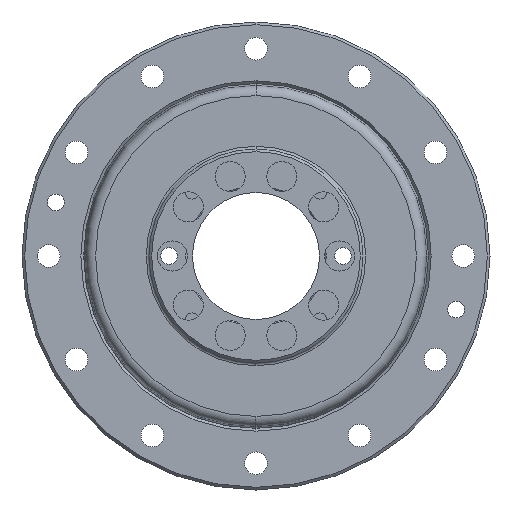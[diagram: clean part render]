
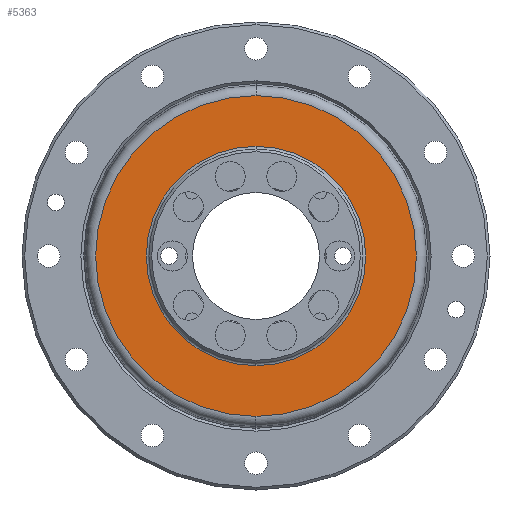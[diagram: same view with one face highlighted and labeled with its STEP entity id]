
A CAD part, left-side view. The second image highlights one B-rep face of the part: STEP entity #5363.
In plain terms, the highlighted planar face has unit normal (-1, 0, 0).
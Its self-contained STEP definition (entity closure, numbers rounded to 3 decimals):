
#2477 = CARTESIAN_POINT ( 'NONE',  ( 1.7, 0., 0. ) ) ;
#2858 = CIRCLE ( 'NONE', #3578, 23.988 ) ;
#3578 = AXIS2_PLACEMENT_3D ( 'NONE', #4818, #15062, #6288 ) ;
#3952 = DIRECTION ( 'NONE',  ( 0., 0., 1. ) ) ;
#4214 = AXIS2_PLACEMENT_3D ( 'NONE', #14289, #5531, #15773 ) ;
#4442 = AXIS2_PLACEMENT_3D ( 'NONE', #2477, #12721, #3952 ) ;
#4766 = AXIS2_PLACEMENT_3D ( 'NONE', #13848, #8037, #18282 ) ;
#4790 = ORIENTED_EDGE ( 'NONE', *, *, #7556, .F. ) ;
#4818 = CARTESIAN_POINT ( 'NONE',  ( 1.7, 0., 0. ) ) ;
#4931 = ORIENTED_EDGE ( 'NONE', *, *, #14166, .T. ) ;
#5246 = CARTESIAN_POINT ( 'NONE',  ( 1.7, 0., -16.4 ) ) ;
#5334 = CIRCLE ( 'NONE', #4214, 16.4 ) ;
#5363 = ADVANCED_FACE ( 'NONE', ( #11347, #7416 ), #18213, .F. ) ;
#5493 = DIRECTION ( 'NONE',  ( -1., 0., 0. ) ) ;
#5531 = DIRECTION ( 'NONE',  ( -1., 0., 0. ) ) ;
#5776 = CIRCLE ( 'NONE', #4442, 16.4 ) ;
#6288 = DIRECTION ( 'NONE',  ( 0., 0., 1. ) ) ;
#6703 = ORIENTED_EDGE ( 'NONE', *, *, #7079, .F. ) ;
#7079 = EDGE_CURVE ( 'NONE', #12182, #14855, #5334, .T. ) ;
#7289 = CARTESIAN_POINT ( 'NONE',  ( 1.7, 0., 23.988 ) ) ;
#7416 = FACE_OUTER_BOUND ( 'NONE', #10125, .T. ) ;
#7556 = EDGE_CURVE ( 'NONE', #14855, #12182, #5776, .T. ) ;
#8037 = DIRECTION ( 'NONE',  ( 1., 0., 0. ) ) ;
#8251 = VERTEX_POINT ( 'NONE', #9886 ) ;
#8681 = AXIS2_PLACEMENT_3D ( 'NONE', #14253, #5493, #15746 ) ;
#9886 = CARTESIAN_POINT ( 'NONE',  ( 1.7, 0., -23.988 ) ) ;
#10125 = EDGE_LOOP ( 'NONE', ( #4931, #11614 ) ) ;
#10468 = EDGE_CURVE ( 'NONE', #8251, #12873, #15090, .T. ) ;
#11347 = FACE_BOUND ( 'NONE', #13259, .T. ) ;
#11614 = ORIENTED_EDGE ( 'NONE', *, *, #10468, .T. ) ;
#12182 = VERTEX_POINT ( 'NONE', #14241 ) ;
#12721 = DIRECTION ( 'NONE',  ( -1., 0., 0. ) ) ;
#12873 = VERTEX_POINT ( 'NONE', #7289 ) ;
#13259 = EDGE_LOOP ( 'NONE', ( #6703, #4790 ) ) ;
#13848 = CARTESIAN_POINT ( 'NONE',  ( 1.7, 23.988, 0. ) ) ;
#14166 = EDGE_CURVE ( 'NONE', #12873, #8251, #2858, .T. ) ;
#14241 = CARTESIAN_POINT ( 'NONE',  ( 1.7, 0., 16.4 ) ) ;
#14253 = CARTESIAN_POINT ( 'NONE',  ( 1.7, 0., 0. ) ) ;
#14289 = CARTESIAN_POINT ( 'NONE',  ( 1.7, 0., 0. ) ) ;
#14855 = VERTEX_POINT ( 'NONE', #5246 ) ;
#15062 = DIRECTION ( 'NONE',  ( -1., 0., 0. ) ) ;
#15090 = CIRCLE ( 'NONE', #8681, 23.988 ) ;
#15746 = DIRECTION ( 'NONE',  ( 0., 0., 1. ) ) ;
#15773 = DIRECTION ( 'NONE',  ( 0., 0., 1. ) ) ;
#18213 = PLANE ( 'NONE',  #4766 ) ;
#18282 = DIRECTION ( 'NONE',  ( 0., 0., -1. ) ) ;
